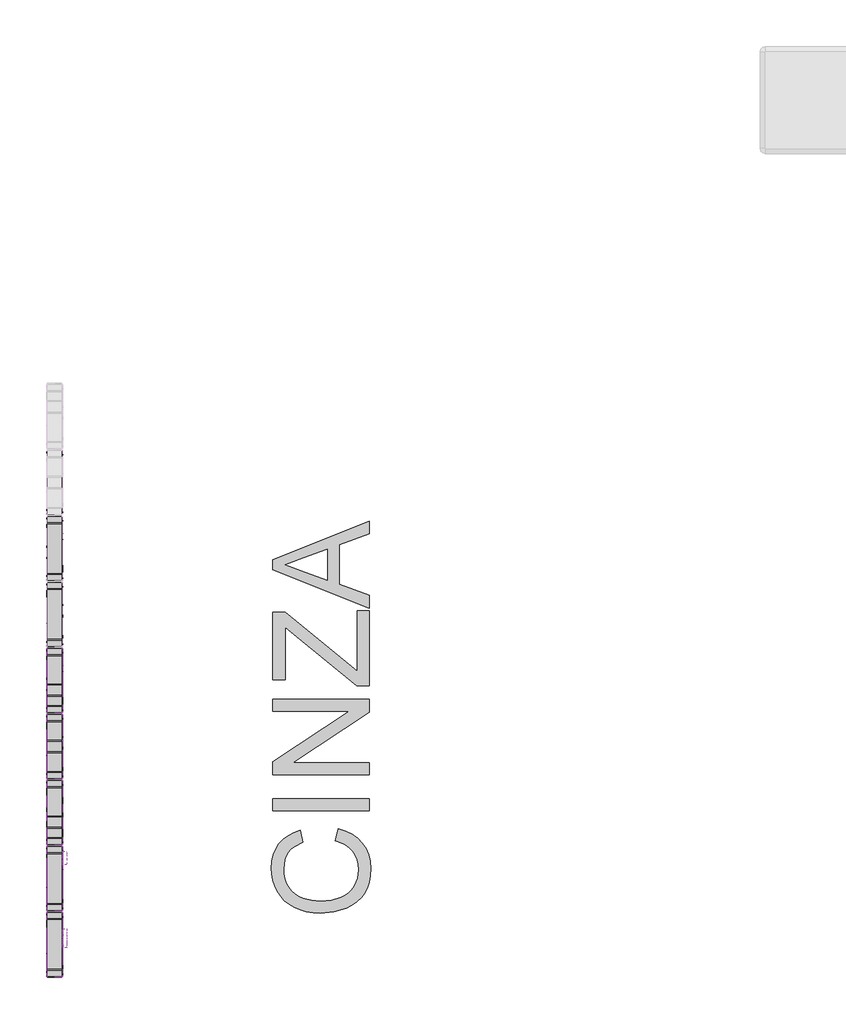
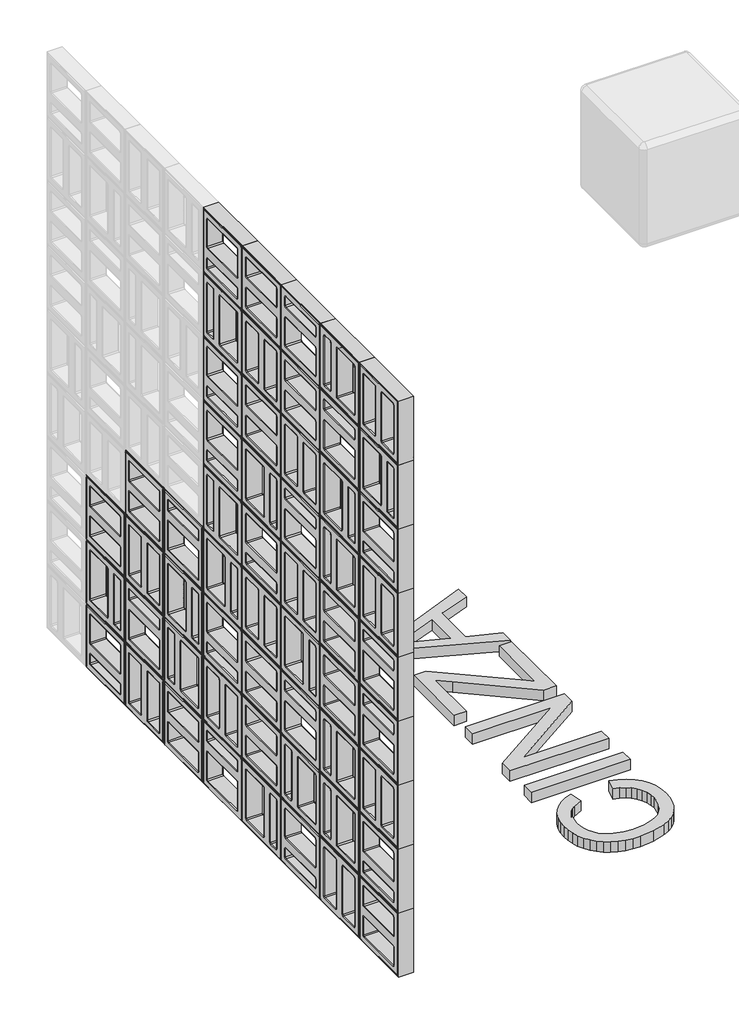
# One storey, part 7 of 8: 59 proxies.
"""IFC4 building model written with IfcOpenShell, lengths in millimetres."""

from ifc_helpers import new_model, si_unit, frame, origin, origin_with_axes, place, context, project, spatial, polyline, outline, extrude, transform, mapped, element, save
from components import plate_08ec880d, generic_models_726e0611, generic_models_d4af8894, generic_models_55a6a26f, generic_models_a87dd402, sim_branco_8a5b93f5, sim_branco_d7bac734

model = new_model("IFC4")

# Units and contexts
model_context = context("Model", 3, world=origin())
ifc_project = project(units=[si_unit("LENGTHUNIT", "METRE", prefix="MILLI")], contexts=[model_context])

# Site, building, storey
site = spatial("IfcSite", under=ifc_project)
building = spatial("IfcBuilding", under=site)
storey = spatial("IfcBuildingStorey", under=building, Name="PORTOBELLO - SHOWROOM", Elevation=0.0)

# Proxies
placement = place(None, origin())
plate_shape = plate_08ec880d(model_context)
element("IfcBuildingElementProxy", 1, Name="PORTOBELLO - ELEMENTO ASSIM CINZA 30X30 (COBOGO) : ASSIM CINZA", ObjectType="PORTOBELLO - ELEMENTO ASSIM CINZA 30X30 (COBOGO) : ASSIM CINZA", at=placement, inside=storey, context=model_context, shape_type="MappedRepresentation", body=[
    mapped(plate_shape, transform((152562.9354422, 11346.1065277, 308.0), x_axis=(0.0, 1.0, 0.0), y_axis=(-1.0, 0.0, 0.0), z_axis=(0.0, 0.0, 1.0))),
])
element("IfcBuildingElementProxy", 2, Name="PORTOBELLO - ELEMENTO ASSIM CINZA 30X30 (COBOGO) : ASSIM CINZA", ObjectType="PORTOBELLO - ELEMENTO ASSIM CINZA 30X30 (COBOGO) : ASSIM CINZA", at=placement, inside=storey, context=model_context, shape_type="MappedRepresentation", body=[
    mapped(plate_shape, transform((152562.9354422, 12270.1065277, 308.0), x_axis=(0.0, 1.0, 0.0), y_axis=(-1.0, 0.0, 0.0), z_axis=(0.0, 0.0, 1.0))),
])
element("IfcBuildingElementProxy", 3, Name="PORTOBELLO - ELEMENTO ASSIM CINZA 30X30 (COBOGO) : ASSIM CINZA", ObjectType="PORTOBELLO - ELEMENTO ASSIM CINZA 30X30 (COBOGO) : ASSIM CINZA", at=placement, inside=storey, context=model_context, shape_type="MappedRepresentation", body=[
    mapped(plate_shape, transform((152562.9354422, 11038.1065277, 616.0), x_axis=(0.0, 1.0, 0.0), y_axis=(-1.0, 0.0, 0.0), z_axis=(0.0, 0.0, 1.0))),
])
element("IfcBuildingElementProxy", 4, Name="PORTOBELLO - ELEMENTO ASSIM CINZA 30X30 (COBOGO) : ASSIM CINZA", ObjectType="PORTOBELLO - ELEMENTO ASSIM CINZA 30X30 (COBOGO) : ASSIM CINZA", at=placement, inside=storey, context=model_context, shape_type="MappedRepresentation", body=[
    mapped(plate_shape, transform((152562.9354422, 11962.1065277, 1232.0), x_axis=(0.0, 1.0, 0.0), y_axis=(-1.0, 0.0, 0.0), z_axis=(0.0, 0.0, 1.0))),
])
element("IfcBuildingElementProxy", 5, Name="PORTOBELLO - ELEMENTO ASSIM CINZA 30X30 (COBOGO) : ASSIM CINZA", ObjectType="PORTOBELLO - ELEMENTO ASSIM CINZA 30X30 (COBOGO) : ASSIM CINZA", at=placement, inside=storey, context=model_context, shape_type="MappedRepresentation", body=[
    mapped(plate_shape, transform((152562.9354422, 11038.1065277, 1540.0), x_axis=(0.0, 1.0, 0.0), y_axis=(-1.0, 0.0, 0.0), z_axis=(0.0, 0.0, 1.0))),
])
element("IfcBuildingElementProxy", 6, Name="PORTOBELLO - ELEMENTO ASSIM CINZA 30X30 (COBOGO) : ASSIM CINZA", ObjectType="PORTOBELLO - ELEMENTO ASSIM CINZA 30X30 (COBOGO) : ASSIM CINZA", at=placement, inside=storey, context=model_context, shape_type="MappedRepresentation", body=[
    mapped(plate_shape, transform((152562.9354422, 11962.1065277, 2156.0), x_axis=(0.0, 1.0, 0.0), y_axis=(-1.0, 0.0, 0.0), z_axis=(0.0, 0.0, 1.0))),
])
element("IfcBuildingElementProxy", 7, Name="PORTOBELLO - ELEMENTO ASSIM CINZA 30X30 (COBOGO) : ASSIM CINZA", ObjectType="PORTOBELLO - ELEMENTO ASSIM CINZA 30X30 (COBOGO) : ASSIM CINZA", at=placement, inside=storey, context=model_context, shape_type="MappedRepresentation", body=[
    mapped(plate_shape, transform((152562.9354422, 11038.1065277, 2464.0), x_axis=(0.0, 1.0, 0.0), y_axis=(-1.0, 0.0, 0.0), z_axis=(0.0, 0.0, 1.0))),
])
generic_models_shape = generic_models_726e0611(model_context)
element("IfcBuildingElementProxy", 8, Name="PORTOBELLO - ELEMENTO ASSIM CINZA 30X30 (COBOGO) : ASSIM CINZA", ObjectType="PORTOBELLO - ELEMENTO ASSIM CINZA 30X30 (COBOGO) : ASSIM CINZA", at=placement, inside=storey, context=model_context, shape_type="MappedRepresentation", body=[
    mapped(generic_models_shape, transform((152562.9354422, 11962.1065277, 0.0), x_axis=(0.0, 1.0, 0.0), y_axis=(-1.0, 0.0, 0.0), z_axis=(0.0, 0.0, 1.0))),
])
element("IfcBuildingElementProxy", 9, Name="PORTOBELLO - ELEMENTO ASSIM CINZA 30X30 (COBOGO) : ASSIM CINZA", ObjectType="PORTOBELLO - ELEMENTO ASSIM CINZA 30X30 (COBOGO) : ASSIM CINZA", at=placement, inside=storey, context=model_context, shape_type="MappedRepresentation", body=[
    mapped(generic_models_shape, transform((152562.9354422, 12578.1065277, 308.0), x_axis=(0.0, 1.0, 0.0), y_axis=(-1.0, 0.0, 0.0), z_axis=(0.0, 0.0, 1.0))),
])
element("IfcBuildingElementProxy", 10, Name="PORTOBELLO - ELEMENTO ASSIM CINZA 30X30 (COBOGO) : ASSIM CINZA", ObjectType="PORTOBELLO - ELEMENTO ASSIM CINZA 30X30 (COBOGO) : ASSIM CINZA", at=placement, inside=storey, context=model_context, shape_type="MappedRepresentation", body=[
    mapped(generic_models_shape, transform((152562.9354422, 11346.1065277, 616.0), x_axis=(0.0, 1.0, 0.0), y_axis=(-1.0, 0.0, 0.0), z_axis=(0.0, 0.0, 1.0))),
])
element("IfcBuildingElementProxy", 11, Name="PORTOBELLO - ELEMENTO ASSIM CINZA 30X30 (COBOGO) : ASSIM CINZA", ObjectType="PORTOBELLO - ELEMENTO ASSIM CINZA 30X30 (COBOGO) : ASSIM CINZA", at=placement, inside=storey, context=model_context, shape_type="MappedRepresentation", body=[
    mapped(generic_models_shape, transform((152562.9354422, 10730.1065277, 924.0), x_axis=(0.0, 1.0, 0.0), y_axis=(-1.0, 0.0, 0.0), z_axis=(0.0, 0.0, 1.0))),
])
element("IfcBuildingElementProxy", 12, Name="PORTOBELLO - ELEMENTO ASSIM CINZA 30X30 (COBOGO) : ASSIM CINZA", ObjectType="PORTOBELLO - ELEMENTO ASSIM CINZA 30X30 (COBOGO) : ASSIM CINZA", at=placement, inside=storey, context=model_context, shape_type="MappedRepresentation", body=[
    mapped(generic_models_shape, transform((152562.9354422, 12270.1065277, 924.0), x_axis=(0.0, 1.0, 0.0), y_axis=(-1.0, 0.0, 0.0), z_axis=(0.0, 0.0, 1.0))),
])
element("IfcBuildingElementProxy", 13, Name="PORTOBELLO - ELEMENTO ASSIM CINZA 30X30 (COBOGO) : ASSIM CINZA", ObjectType="PORTOBELLO - ELEMENTO ASSIM CINZA 30X30 (COBOGO) : ASSIM CINZA", at=placement, inside=storey, context=model_context, shape_type="MappedRepresentation", body=[
    mapped(generic_models_shape, transform((152562.9354422, 10730.1065277, 1232.0), x_axis=(0.0, 1.0, 0.0), y_axis=(-1.0, 0.0, 0.0), z_axis=(0.0, 0.0, 1.0))),
])
element("IfcBuildingElementProxy", 14, Name="PORTOBELLO - ELEMENTO ASSIM CINZA 30X30 (COBOGO) : ASSIM CINZA", ObjectType="PORTOBELLO - ELEMENTO ASSIM CINZA 30X30 (COBOGO) : ASSIM CINZA", at=placement, inside=storey, context=model_context, shape_type="MappedRepresentation", body=[
    mapped(generic_models_shape, transform((152562.9354422, 11346.1065277, 1540.0), x_axis=(0.0, 1.0, 0.0), y_axis=(-1.0, 0.0, 0.0), z_axis=(0.0, 0.0, 1.0))),
])
element("IfcBuildingElementProxy", 15, Name="PORTOBELLO - ELEMENTO ASSIM CINZA 30X30 (COBOGO) : ASSIM CINZA", ObjectType="PORTOBELLO - ELEMENTO ASSIM CINZA 30X30 (COBOGO) : ASSIM CINZA", at=placement, inside=storey, context=model_context, shape_type="MappedRepresentation", body=[
    mapped(generic_models_shape, transform((152562.9354422, 11038.1065277, 2156.0), x_axis=(0.0, 1.0, 0.0), y_axis=(-1.0, 0.0, 0.0), z_axis=(0.0, 0.0, 1.0))),
])
element("IfcBuildingElementProxy", 16, Name="PORTOBELLO - ELEMENTO ASSIM CINZA 30X30 (COBOGO) : ASSIM CINZA", ObjectType="PORTOBELLO - ELEMENTO ASSIM CINZA 30X30 (COBOGO) : ASSIM CINZA", at=placement, inside=storey, context=model_context, shape_type="MappedRepresentation", body=[
    mapped(generic_models_shape, transform((152562.9354422, 11346.1065277, 2464.0), x_axis=(0.0, 1.0, 0.0), y_axis=(-1.0, 0.0, 0.0), z_axis=(0.0, 0.0, 1.0))),
])
generic_models_2_shape = generic_models_d4af8894(model_context)
element("IfcBuildingElementProxy", 17, Name="PORTOBELLO - ELEMENTO ASSIM CINZA 30X30 (COBOGO) : ASSIM CINZA", ObjectType="PORTOBELLO - ELEMENTO ASSIM CINZA 30X30 (COBOGO) : ASSIM CINZA", at=placement, inside=storey, context=model_context, shape_type="MappedRepresentation", body=[
    mapped(generic_models_2_shape, transform((152562.9354422, 11346.1065277, 0.0), x_axis=(0.0, 1.0, 0.0), y_axis=(-1.0, 0.0, 0.0), z_axis=(0.0, 0.0, 1.0))),
])
element("IfcBuildingElementProxy", 18, Name="PORTOBELLO - ELEMENTO ASSIM CINZA 30X30 (COBOGO) : ASSIM CINZA", ObjectType="PORTOBELLO - ELEMENTO ASSIM CINZA 30X30 (COBOGO) : ASSIM CINZA", at=placement, inside=storey, context=model_context, shape_type="MappedRepresentation", body=[
    mapped(generic_models_2_shape, transform((152562.9354422, 12886.1065277, 0.0), x_axis=(0.0, 1.0, 0.0), y_axis=(-1.0, 0.0, 0.0), z_axis=(0.0, 0.0, 1.0))),
])
element("IfcBuildingElementProxy", 19, Name="PORTOBELLO - ELEMENTO ASSIM CINZA 30X30 (COBOGO) : ASSIM CINZA", ObjectType="PORTOBELLO - ELEMENTO ASSIM CINZA 30X30 (COBOGO) : ASSIM CINZA", at=placement, inside=storey, context=model_context, shape_type="MappedRepresentation", body=[
    mapped(generic_models_2_shape, transform((152562.9354422, 10730.1065277, 308.0), x_axis=(0.0, 1.0, 0.0), y_axis=(-1.0, 0.0, 0.0), z_axis=(0.0, 0.0, 1.0))),
])
element("IfcBuildingElementProxy", 20, Name="PORTOBELLO - ELEMENTO ASSIM CINZA 30X30 (COBOGO) : ASSIM CINZA", ObjectType="PORTOBELLO - ELEMENTO ASSIM CINZA 30X30 (COBOGO) : ASSIM CINZA", at=placement, inside=storey, context=model_context, shape_type="MappedRepresentation", body=[
    mapped(generic_models_2_shape, transform((152562.9354422, 11962.1065277, 616.0), x_axis=(0.0, 1.0, 0.0), y_axis=(-1.0, 0.0, 0.0), z_axis=(0.0, 0.0, 1.0))),
])
element("IfcBuildingElementProxy", 21, Name="PORTOBELLO - ELEMENTO ASSIM CINZA 30X30 (COBOGO) : ASSIM CINZA", ObjectType="PORTOBELLO - ELEMENTO ASSIM CINZA 30X30 (COBOGO) : ASSIM CINZA", at=placement, inside=storey, context=model_context, shape_type="MappedRepresentation", body=[
    mapped(generic_models_2_shape, transform((152562.9354422, 11654.1065277, 1232.0), x_axis=(0.0, 1.0, 0.0), y_axis=(-1.0, 0.0, 0.0), z_axis=(0.0, 0.0, 1.0))),
])
element("IfcBuildingElementProxy", 22, Name="PORTOBELLO - ELEMENTO ASSIM CINZA 30X30 (COBOGO) : ASSIM CINZA", ObjectType="PORTOBELLO - ELEMENTO ASSIM CINZA 30X30 (COBOGO) : ASSIM CINZA", at=placement, inside=storey, context=model_context, shape_type="MappedRepresentation", body=[
    mapped(generic_models_2_shape, transform((152562.9354422, 11962.1065277, 1540.0), x_axis=(0.0, 1.0, 0.0), y_axis=(-1.0, 0.0, 0.0), z_axis=(0.0, 0.0, 1.0))),
])
element("IfcBuildingElementProxy", 23, Name="PORTOBELLO - ELEMENTO ASSIM CINZA 30X30 (COBOGO) : ASSIM CINZA", ObjectType="PORTOBELLO - ELEMENTO ASSIM CINZA 30X30 (COBOGO) : ASSIM CINZA", at=placement, inside=storey, context=model_context, shape_type="MappedRepresentation", body=[
    mapped(generic_models_2_shape, transform((152562.9354422, 10730.1065277, 1848.0), x_axis=(0.0, 1.0, 0.0), y_axis=(-1.0, 0.0, 0.0), z_axis=(0.0, 0.0, 1.0))),
])
element("IfcBuildingElementProxy", 24, Name="PORTOBELLO - ELEMENTO ASSIM CINZA 30X30 (COBOGO) : ASSIM CINZA", ObjectType="PORTOBELLO - ELEMENTO ASSIM CINZA 30X30 (COBOGO) : ASSIM CINZA", at=placement, inside=storey, context=model_context, shape_type="MappedRepresentation", body=[
    mapped(generic_models_2_shape, transform((152562.9354422, 11962.1065277, 1848.0), x_axis=(0.0, 1.0, 0.0), y_axis=(-1.0, 0.0, 0.0), z_axis=(0.0, 0.0, 1.0))),
])
element("IfcBuildingElementProxy", 25, Name="PORTOBELLO - ELEMENTO ASSIM CINZA 30X30 (COBOGO) : ASSIM CINZA", ObjectType="PORTOBELLO - ELEMENTO ASSIM CINZA 30X30 (COBOGO) : ASSIM CINZA", at=placement, inside=storey, context=model_context, shape_type="MappedRepresentation", body=[
    mapped(generic_models_2_shape, transform((152562.9354422, 11962.1065277, 2464.0), x_axis=(0.0, 1.0, 0.0), y_axis=(-1.0, 0.0, 0.0), z_axis=(0.0, 0.0, 1.0))),
])
generic_models_3_shape = generic_models_55a6a26f(model_context)
element("IfcBuildingElementProxy", 26, Name="PORTOBELLO - ELEMENTO ASSIM CINZA 30X30 (COBOGO) : ASSIM CINZA", ObjectType="PORTOBELLO - ELEMENTO ASSIM CINZA 30X30 (COBOGO) : ASSIM CINZA", at=placement, inside=storey, context=model_context, shape_type="MappedRepresentation", body=[
    mapped(generic_models_3_shape, transform((152562.9354422, 11654.1065277, 0.0), x_axis=(0.0, 1.0, 0.0), y_axis=(-1.0, 0.0, 0.0), z_axis=(0.0, 0.0, 1.0))),
])
element("IfcBuildingElementProxy", 27, Name="PORTOBELLO - ELEMENTO ASSIM CINZA 30X30 (COBOGO) : ASSIM CINZA", ObjectType="PORTOBELLO - ELEMENTO ASSIM CINZA 30X30 (COBOGO) : ASSIM CINZA", at=placement, inside=storey, context=model_context, shape_type="MappedRepresentation", body=[
    mapped(generic_models_3_shape, transform((152562.9354422, 12886.1065277, 308.0), x_axis=(0.0, 1.0, 0.0), y_axis=(-1.0, 0.0, 0.0), z_axis=(0.0, 0.0, 1.0))),
])
element("IfcBuildingElementProxy", 28, Name="PORTOBELLO - ELEMENTO ASSIM CINZA 30X30 (COBOGO) : ASSIM CINZA", ObjectType="PORTOBELLO - ELEMENTO ASSIM CINZA 30X30 (COBOGO) : ASSIM CINZA", at=placement, inside=storey, context=model_context, shape_type="MappedRepresentation", body=[
    mapped(generic_models_3_shape, transform((152562.9354422, 12270.1065277, 616.0), x_axis=(0.0, 1.0, 0.0), y_axis=(-1.0, 0.0, 0.0), z_axis=(0.0, 0.0, 1.0))),
])
element("IfcBuildingElementProxy", 29, Name="PORTOBELLO - ELEMENTO ASSIM CINZA 30X30 (COBOGO) : ASSIM CINZA", ObjectType="PORTOBELLO - ELEMENTO ASSIM CINZA 30X30 (COBOGO) : ASSIM CINZA", at=placement, inside=storey, context=model_context, shape_type="MappedRepresentation", body=[
    mapped(generic_models_3_shape, transform((152562.9354422, 11346.1065277, 924.0), x_axis=(0.0, 1.0, 0.0), y_axis=(-1.0, 0.0, 0.0), z_axis=(0.0, 0.0, 1.0))),
])
element("IfcBuildingElementProxy", 30, Name="PORTOBELLO - ELEMENTO ASSIM CINZA 30X30 (COBOGO) : ASSIM CINZA", ObjectType="PORTOBELLO - ELEMENTO ASSIM CINZA 30X30 (COBOGO) : ASSIM CINZA", at=placement, inside=storey, context=model_context, shape_type="MappedRepresentation", body=[
    mapped(generic_models_3_shape, transform((152562.9354422, 11962.1065277, 924.0), x_axis=(0.0, 1.0, 0.0), y_axis=(-1.0, 0.0, 0.0), z_axis=(0.0, 0.0, 1.0))),
])
element("IfcBuildingElementProxy", 31, Name="PORTOBELLO - ELEMENTO ASSIM CINZA 30X30 (COBOGO) : ASSIM CINZA", ObjectType="PORTOBELLO - ELEMENTO ASSIM CINZA 30X30 (COBOGO) : ASSIM CINZA", at=placement, inside=storey, context=model_context, shape_type="MappedRepresentation", body=[
    mapped(generic_models_3_shape, transform((152562.9354422, 11654.1065277, 1540.0), x_axis=(0.0, 1.0, 0.0), y_axis=(-1.0, 0.0, 0.0), z_axis=(0.0, 0.0, 1.0))),
])
element("IfcBuildingElementProxy", 32, Name="PORTOBELLO - ELEMENTO ASSIM CINZA 30X30 (COBOGO) : ASSIM CINZA", ObjectType="PORTOBELLO - ELEMENTO ASSIM CINZA 30X30 (COBOGO) : ASSIM CINZA", at=placement, inside=storey, context=model_context, shape_type="MappedRepresentation", body=[
    mapped(generic_models_3_shape, transform((152562.9354422, 11038.1065277, 1848.0), x_axis=(0.0, 1.0, 0.0), y_axis=(-1.0, 0.0, 0.0), z_axis=(0.0, 0.0, 1.0))),
])
element("IfcBuildingElementProxy", 33, Name="PORTOBELLO - ELEMENTO ASSIM CINZA 30X30 (COBOGO) : ASSIM CINZA", ObjectType="PORTOBELLO - ELEMENTO ASSIM CINZA 30X30 (COBOGO) : ASSIM CINZA", at=placement, inside=storey, context=model_context, shape_type="MappedRepresentation", body=[
    mapped(generic_models_3_shape, transform((152562.9354422, 10730.1065277, 2156.0), x_axis=(0.0, 1.0, 0.0), y_axis=(-1.0, 0.0, 0.0), z_axis=(0.0, 0.0, 1.0))),
])
generic_models_4_shape = generic_models_a87dd402(model_context)
element("IfcBuildingElementProxy", 34, Name="PORTOBELLO - ELEMENTO ASSIM CINZA 30X30 (COBOGO) : ASSIM CINZA", ObjectType="PORTOBELLO - ELEMENTO ASSIM CINZA 30X30 (COBOGO) : ASSIM CINZA", at=placement, inside=storey, context=model_context, shape_type="MappedRepresentation", body=[
    mapped(generic_models_4_shape, transform((152562.9354422, 11038.1065277, 308.0), x_axis=(0.0, -1.0, 0.0), y_axis=(1.0, 0.0, 0.0), z_axis=(0.0, 0.0, 1.0))),
])
element("IfcBuildingElementProxy", 35, Name="10mm Arial", ObjectType="10mm Arial", at=placement, inside=storey, context=model_context, shape_type="SweptSolid", body=[
    extrude(outline(polyline([(10789.8815744, 2658.9410805), (10802.4386132, 2655.703719), (10796.6444718, 2641.0712126), (10787.5516551, 2630.381175), (10775.607753, 2623.8420725), (10761.2603552, 2621.6623717), (10746.6952939, 2623.3117093), (10735.1284708, 2628.2597221), (10726.2625147, 2636.3347319), (10719.8000543, 2647.3650604), (10714.5393418, 2674.2204461), (10716.0261982, 2688.8682808), (10720.4867674, 2701.5172901), (10727.6880575, 2711.7658694), (10737.3970764, 2719.2124141), (10748.9117829, 2723.7465597), (10761.5301353, 2725.2579415), (10775.298119, 2723.3020356), (10786.6810011, 2717.4343178), (10795.3231623, 2708.0165387), (10800.8689833, 2695.410449), (10788.3119446, 2692.4183421), (10778.0112487, 2707.8571232), (10761.039626, 2712.7009028), (10741.3947275, 2707.3298256), (10730.2969539, 2692.9088514), (10727.0963806, 2674.2449715), (10730.8855651, 2652.6135102), (10742.6823144, 2638.7934099), (10760.0095564, 2634.2194105), (10770.4911276, 2635.7767776), (10779.2252593, 2640.4488789), (10785.8195441, 2648.1866635), (10789.8815744, 2658.9410805)])), frame((152600.4354422, 0.0, 0.0), z_axis=(1.0, 0.0, 0.0), x_axis=(0.0, 1.0, 0.0)), (0.0, 0.0, 1.0), 20.0),
    extrude(outline(polyline([(152620.4354422, 10830.6919504), (152620.4354422, 10818.1349116), (152600.4354422, 10818.1349116), (152600.4354422, 10830.6919504), (152620.4354422, 10830.6919504)])), frame((0.0, 0.0, 2711.1312729), z_axis=(0.0, 0.0, 1.0), x_axis=(1.0, 0.0, 0.0)), (0.0, 0.0, 1.0), 12.5570388),
    extrude(outline(polyline([(152620.4354422, 10830.6919504), (152620.4354422, 10818.1349116), (152600.4354422, 10818.1349116), (152600.4354422, 10830.6919504), (152620.4354422, 10830.6919504)])), frame((0.0, 0.0, 2623.2320015), z_axis=(0.0, 0.0, 1.0), x_axis=(1.0, 0.0, 0.0)), (0.0, 0.0, 1.0), 73.7726028),
    extrude(outline(polyline([(10849.5275086, 2623.2320015), (10849.5275086, 2697.0046043), (10862.0845473, 2697.0046043), (10862.0845473, 2686.7039084), (10871.6862674, 2695.6066527), (10884.7951292, 2698.5742342), (10896.6531922, 2696.1830012), (10904.746596, 2689.9044818), (10908.5112551, 2680.6706437), (10909.1734427, 2668.5305379), (10909.1734427, 2623.2320015), (10896.616404, 2623.2320015), (10896.616404, 2666.8382807), (10895.1694014, 2677.948317), (10890.0558417, 2683.8221661), (10881.4351403, 2686.0171954), (10867.8112437, 2681.0875766), (10863.5162214, 2673.9445346), (10862.0845473, 2662.3746458), (10862.0845473, 2623.2320015), (10849.5275086, 2623.2320015)])), frame((152600.4354422, 0.0, 0.0), z_axis=(1.0, 0.0, 0.0), x_axis=(0.0, 1.0, 0.0)), (0.0, 0.0, 1.0), 20.0),
    extrude(outline(polyline([(10918.5912218, 2623.2320015), (10918.5912218, 2635.0532763), (10961.9277208, 2684.4475655), (10949.1009019, 2684.4475655), (10921.7304815, 2684.4475655), (10921.7304815, 2697.0046043), (10979.8067858, 2697.0046043), (10979.8067858, 2686.3360264), (10941.37538, 2642.5090181), (10935.4892681, 2635.7890403), (10950.0083442, 2635.7890403), (10981.3764156, 2635.7890403), (10981.3764156, 2623.2320015), (10918.5912218, 2623.2320015)])), frame((152600.4354422, 0.0, 0.0), z_axis=(1.0, 0.0, 0.0), x_axis=(0.0, 1.0, 0.0)), (0.0, 0.0, 1.0), 20.0),
    extrude(outline(polyline([(11041.0223498, 2632.6497806), (11028.8454558, 2624.1394438), (11015.3932375, 2621.6623717), (11004.8994036, 2623.1522938), (10997.1585532, 2627.62206), (10992.3852843, 2634.4094828), (10990.7941947, 2642.8523746), (10993.1976904, 2652.7851885), (10999.512998, 2659.9956756), (11008.3053777, 2664.1159539), (11019.1701593, 2666.0044148), (11040.9487734, 2670.3208969), (11041.0223498, 2673.1168001), (11037.564259, 2682.3874264), (11023.6828451, 2686.0171954), (11010.9786535, 2683.6014369), (11004.9208633, 2675.0297865), (10992.3638246, 2676.5994163), (10997.7962154, 2688.8621495), (11008.7345734, 2696.0481111), (11025.3015259, 2698.5742342), (11040.5195777, 2696.3424167), (11049.1157537, 2690.7383477), (11052.9662519, 2682.2157481), (11053.5793886, 2671.2283392), (11053.5793886, 2655.6056171), (11054.2170507, 2633.7902148), (11056.7186483, 2623.2320015), (11044.1616095, 2623.2320015), (11041.0223498, 2632.6497806)]), holes=[polyline([(11041.0223498, 2657.7638582), (11020.7643146, 2653.9133599), (11009.9608467, 2651.8777462), (11005.0680161, 2648.5668083), (11003.3512335, 2643.7352914), (11007.0913671, 2636.9417372), (11018.0665133, 2634.2194105), (11030.7707049, 2637.2237801), (11038.9622106, 2644.4955809), (11040.9487734, 2654.2076655), (11041.0223498, 2657.7638582)])]), frame((152600.4354422, 0.0, 0.0), z_axis=(1.0, 0.0, 0.0), x_axis=(0.0, 1.0, 0.0)), (0.0, 0.0, 1.0), 20.0),
])
element("IfcBuildingElementProxy", 36, Name="10mm Arial Narrow", ObjectType="10mm Arial Narrow", at=placement, inside=storey, context=model_context, shape_type="SweptSolid", body=[
    extrude(outline(polyline([(11101.3832905, 2623.2320015), (11101.3832905, 2723.9506053), (11132.6801752, 2723.9506053), (11148.9758767, 2722.0722846), (11160.4488628, 2712.5918414), (11164.7385412, 2695.5727326), (11162.9522328, 2683.496907), (11157.5933076, 2673.8705133), (11147.8495188, 2667.5692548), (11132.9086196, 2665.4688354), (11111.1302521, 2665.4688354), (11111.1302521, 2623.2320015), (11101.3832905, 2623.2320015)]), holes=[polyline([(11111.1302521, 2676.8402906), (11134.1016071, 2676.8402906), (11149.9658025, 2681.3711048), (11154.9915796, 2695.0396956), (11152.5167651, 2705.205472), (11146.5391363, 2711.0054218), (11133.8731626, 2712.57915), (11111.1302521, 2712.57915), (11111.1302521, 2676.8402906)])]), frame((152600.4354422, 0.0, 0.0), z_axis=(1.0, 0.0, 0.0), x_axis=(0.0, 1.0, 0.0)), (0.0, 0.0, 1.0), 20.0),
    extrude(outline(polyline([(11172.8610093, 2659.7831077), (11174.8154781, 2676.3738833), (11180.6788848, 2688.3259681), (11189.5374515, 2695.5505227), (11200.4774006, 2697.9587076), (11211.2904362, 2695.5505227), (11220.1743856, 2688.3259681), (11226.1139404, 2676.5642536), (11228.093792, 2660.5445891), (11226.1488416, 2643.3827025), (11220.3139905, 2631.2402474), (11211.4649423, 2624.0156928), (11200.4774006, 2621.6075079), (11189.6167724, 2624.0220385), (11180.7423415, 2631.2656301), (11174.8313423, 2643.2240606), (11172.8610093, 2659.7831077)]), holes=[polyline([(11182.6079709, 2659.8084905), (11183.9120078, 2647.2567391), (11187.8241184, 2638.385481), (11193.6653151, 2633.1122224), (11200.7566105, 2631.3544696), (11207.4766836, 2633.1280866), (11213.1687569, 2638.4489378), (11217.052312, 2647.33606), (11218.3468303, 2659.8084905), (11217.0427934, 2672.3221678), (11213.1306829, 2681.1807345), (11207.2894861, 2686.453993), (11200.1981908, 2688.2117459), (11193.430525, 2686.4444745), (11187.7479702, 2681.1426604), (11183.8929707, 2672.2745752), (11182.6079709, 2659.8084905)])]), frame((152600.4354422, 0.0, 0.0), z_axis=(1.0, 0.0, 0.0), x_axis=(0.0, 1.0, 0.0)), (0.0, 0.0, 1.0), 20.0),
    extrude(outline(polyline([(11299.5715108, 2631.3544696), (11301.1960044, 2621.6075079), (11293.8350177, 2621.6075079), (11285.5602534, 2623.7269644), (11281.2451922, 2629.5269143), (11280.0775874, 2644.1727395), (11280.0775874, 2686.5872523), (11271.9551194, 2686.5872523), (11271.9551194, 2689.8362395), (11270.3306258, 2684.9627587), (11262.7665774, 2686.5872523), (11256.6874178, 2684.2647341), (11252.8165541, 2677.779451), (11250.8367025, 2662.3721444), (11250.8367025, 2623.2320015), (11241.0897408, 2623.2320015), (11241.0897408, 2696.3342139), (11250.8367025, 2696.3342139), (11250.8367025, 2686.6380177), (11257.0808498, 2695.7250288), (11263.4772934, 2697.9587076), (11271.9551194, 2696.3342139), (11280.0775874, 2696.3342139), (11280.0775874, 2712.57915), (11289.8245491, 2720.7016181), (11289.8245491, 2696.3342139), (11299.5715108, 2696.3342139), (11299.5715108, 2686.5872523), (11289.8245491, 2686.5872523), (11289.8245491, 2641.9390608), (11290.6875613, 2633.9435063), (11295.307215, 2631.3544696), (11299.5715108, 2631.3544696)])), frame((152600.4354422, 0.0, 0.0), z_axis=(1.0, 0.0, 0.0), x_axis=(0.0, 1.0, 0.0)), (0.0, 0.0, 1.0), 20.0),
    extrude(outline(polyline([(11306.0694852, 2659.7831077), (11308.0239541, 2676.3738833), (11313.8873607, 2688.3259681), (11322.7459274, 2695.5505227), (11333.6858765, 2697.9587076), (11344.4989121, 2695.5505227), (11353.3828616, 2688.3259681), (11359.3224163, 2676.5642536), (11361.3022679, 2660.5445891), (11359.3573175, 2643.3827025), (11353.5224665, 2631.2402474), (11344.6734183, 2624.0156928), (11333.6858765, 2621.6075079), (11322.8252484, 2624.0220385), (11313.9508175, 2631.2656301), (11308.0398183, 2643.2240606), (11306.0694852, 2659.7831077)]), holes=[polyline([(11315.8164468, 2659.8084905), (11317.1204837, 2647.2567391), (11321.0325943, 2638.385481), (11326.873791, 2633.1122224), (11333.9650864, 2631.3544696), (11340.6851596, 2633.1280866), (11346.3772329, 2638.4489378), (11350.2607879, 2647.33606), (11351.5553062, 2659.8084905), (11350.2512694, 2672.3221678), (11346.3391588, 2681.1807345), (11340.497962, 2686.453993), (11333.4066667, 2688.2117459), (11326.6390009, 2686.4444745), (11320.9564462, 2681.1426604), (11317.1014467, 2672.2745752), (11315.8164468, 2659.8084905)])]), frame((152600.4354422, 0.0, 0.0), z_axis=(1.0, 0.0, 0.0), x_axis=(0.0, 1.0, 0.0)), (0.0, 0.0, 1.0), 20.0),
    extrude(outline(polyline([(11384.0451784, 2623.2320015), (11374.2982168, 2623.2320015), (11374.2982168, 2723.9506053), (11384.0451784, 2723.9506053), (11384.0451784, 2688.5417212), (11391.4442392, 2695.623498), (11400.6454725, 2697.9587076), (11413.5271991, 2693.7578686), (11422.8045806, 2681.0284382), (11426.2820123, 2660.3415274), (11424.3497533, 2643.887184), (11418.5529763, 2631.6844448), (11410.1798539, 2624.1267422), (11400.5185589, 2621.6075079), (11391.1777207, 2624.2219273), (11384.0451784, 2631.9890374), (11384.0451784, 2623.2320015)]), holes=[polyline([(11384.0451784, 2660.3415274), (11386.1265609, 2643.0939742), (11392.0153502, 2634.362321), (11400.4677935, 2631.3544696), (11406.4105211, 2633.1439508), (11411.6488784, 2638.5123945), (11416.5350506, 2659.935404), (11411.8265574, 2681.3711048), (11406.5818544, 2686.5015856), (11400.2647318, 2688.2117459), (11394.287103, 2686.4222647), (11388.9948074, 2681.0538209), (11384.0451784, 2660.3415274)])]), frame((152600.4354422, 0.0, 0.0), z_axis=(1.0, 0.0, 0.0), x_axis=(0.0, 1.0, 0.0)), (0.0, 0.0, 1.0), 20.0),
    extrude(outline(polyline([(11478.2658077, 2645.9749121), (11488.0127694, 2644.3504185), (11484.313239, 2634.4638519), (11478.4942522, 2627.344001), (11470.7905989, 2623.0416312), (11461.4370693, 2621.6075079), (11449.8435153, 2624.0220385), (11440.699393, 2631.2656301), (11434.7598383, 2643.0717643), (11432.7799867, 2659.1739226), (11434.7693568, 2675.8408463), (11440.7374671, 2688.0213756), (11449.7515029, 2695.4743746), (11460.8786496, 2697.9587076), (11471.5615988, 2695.5600412), (11480.3091161, 2688.3640422), (11486.1439672, 2676.6245376), (11488.0889175, 2660.5953545), (11488.0127694, 2657.3463673), (11442.5269483, 2657.3463673), (11448.5299599, 2637.9032094), (11454.4599961, 2632.9916546), (11461.5639828, 2631.3544696), (11471.7424506, 2635.0095802), (11478.2658077, 2645.9749121)]), holes=[polyline([(11443.1868989, 2667.093329), (11478.2658077, 2667.093329), (11474.001512, 2681.3584135), (11468.1761795, 2686.4984128), (11460.9547977, 2688.2117459), (11448.7457129, 2682.5006356), (11443.1868989, 2667.093329)])]), frame((152600.4354422, 0.0, 0.0), z_axis=(1.0, 0.0, 0.0), x_axis=(0.0, 1.0, 0.0)), (0.0, 0.0, 1.0), 20.0),
    extrude(outline(polyline([(152620.4354422, 11510.7556799), (152620.4354422, 11501.0087183), (152600.4354422, 11501.0087183), (152600.4354422, 11510.7556799), (152620.4354422, 11510.7556799)])), frame((0.0, 0.0, 2623.2320015), z_axis=(0.0, 0.0, 1.0), x_axis=(1.0, 0.0, 0.0)), (0.0, 0.0, 1.0), 100.7186038),
    extrude(outline(polyline([(152620.4354422, 11536.7475777), (152620.4354422, 11527.000616), (152600.4354422, 11527.000616), (152600.4354422, 11536.7475777), (152620.4354422, 11536.7475777)])), frame((0.0, 0.0, 2623.2320015), z_axis=(0.0, 0.0, 1.0), x_axis=(1.0, 0.0, 0.0)), (0.0, 0.0, 1.0), 100.7186038),
    extrude(outline(polyline([(11548.1190329, 2659.7831077), (11550.0735018, 2676.3738833), (11555.9369084, 2688.3259681), (11564.7954751, 2695.5505227), (11575.7354243, 2697.9587076), (11586.5484599, 2695.5505227), (11595.4324093, 2688.3259681), (11601.371964, 2676.5642536), (11603.3518156, 2660.5445891), (11601.4068653, 2643.3827025), (11595.5720142, 2631.2402474), (11586.722966, 2624.0156928), (11575.7354243, 2621.6075079), (11564.8747961, 2624.0220385), (11556.0003652, 2631.2656301), (11550.089366, 2643.2240606), (11548.1190329, 2659.7831077)]), holes=[polyline([(11557.8659946, 2659.8084905), (11559.1700314, 2647.2567391), (11563.082142, 2638.385481), (11568.9233388, 2633.1122224), (11576.0146341, 2631.3544696), (11582.7347073, 2633.1280866), (11588.4267806, 2638.4489378), (11592.3103356, 2647.33606), (11593.604854, 2659.8084905), (11592.3008171, 2672.3221678), (11588.3887065, 2681.1807345), (11582.5475098, 2686.453993), (11575.4562144, 2688.2117459), (11568.6885487, 2686.4444745), (11563.0059939, 2681.1426604), (11559.1509944, 2672.2745752), (11557.8659946, 2659.8084905)])]), frame((152600.4354422, 0.0, 0.0), z_axis=(1.0, 0.0, 0.0), x_axis=(0.0, 1.0, 0.0)), (0.0, 0.0, 1.0), 20.0),
])
element("IfcBuildingElementProxy", 37, Name="450mm Arial", ObjectType="450mm Arial", at=placement, inside=storey, context=model_context, shape_type="SweptSolid", body=[
    extrude(outline(polyline([(153871.9875301, 11213.3111821), (153886.4784019, 11269.5182), (153921.4328273, 11258.3961814), (153951.9754957, 11243.5828328), (153978.1064073, 11225.0781542), (153999.8255619, 11202.8821456), (154016.8996786, 11177.4956751), (154029.0954763, 11149.419611), (154036.4129548, 11118.6539533), (154038.8521144, 11085.198702), (154037.0064494, 11050.9235362), (154031.4694543, 11020.0035013), (154022.2411292, 10992.4385972), (154009.3214741, 10968.228824), (153992.9026028, 10947.041413), (153973.1766292, 10928.5435956), (153950.1435531, 10912.7353718), (153923.8033747, 10899.6167416), (153865.757553, 10881.9559916), (153803.5950064, 10876.069075), (153769.6937766, 10877.732918), (153738.0293006, 10882.724447), (153708.6015784, 10891.043662), (153681.4106102, 10902.6905629), (153656.905805, 10917.404424), (153635.536572, 10934.9245192), (153617.3029111, 10955.2508486), (153602.2048224, 10978.3834122), (153590.3658076, 11003.5366016), (153581.9093684, 11029.9248084), (153576.8355049, 11057.5480328), (153575.1442171, 11086.4062746), (153577.3329425, 11118.5544658), (153583.8991188, 11148.033647), (153594.8427459, 11174.8438181), (153610.1638239, 11198.9849793), (153629.4575415, 11220.0591804), (153652.3190873, 11237.6684713), (153678.7484614, 11251.8128521), (153708.7456638, 11262.4923227), (153722.1387423, 11206.2853049), (153681.1498843, 11186.7994735), (153665.4823153, 11174.3806866), (153653.032653, 11160.1779855), (153643.5470326, 11144.1090359), (153636.7715894, 11126.091503), (153631.3512349, 11084.210688), (153632.8538395, 11058.9957477), (153637.3616534, 11035.9352268), (153644.8746764, 11015.0291253), (153655.3929086, 10996.2774432), (153668.4429267, 10979.9168922), (153683.5513072, 10966.1841839), (153700.7180502, 10955.0793184), (153719.9431557, 10946.6022956), (153761.0829602, 10935.8576435), (153803.4852271, 10932.2760928), (153855.410851, 10936.5163195), (153900.3105977, 10949.2369996), (153919.6969416, 10958.8975808), (153936.4691651, 10970.9184176), (153950.6272683, 10985.2995101), (153962.1712511, 11002.0408582), (153977.5266352, 11039.3521085), (153982.6450965, 11079.599956), (153980.9023496, 11104.0361492), (153975.674109, 11126.5168979), (153966.9603745, 11147.0422024), (153954.7611463, 11165.6120625), (153939.1313139, 11181.7873609), (153920.1257671, 11195.1289803), (153897.7445058, 11205.6369207), (153871.9875301, 11213.3111821)])), origin_with_axes(), (0.0, 0.0, 1.0), 50.0),
    extrude(outline(polyline([(154031.8262371, 11353.8287267), (153582.1700943, 11353.8287267), (153582.1700943, 11410.0357446), (154031.8262371, 11410.0357446), (154031.8262371, 11353.8287267)])), origin_with_axes(), (0.0, 0.0, 1.0), 50.0),
    extrude(outline(polyline([(154031.8262371, 11522.4497803), (153582.1700943, 11522.4497803), (153582.1700943, 11582.6088541), (153938.4040258, 11817.536624), (153582.1700943, 11817.536624), (153582.1700943, 11873.7436419), (154031.8262371, 11873.7436419), (154031.8262371, 11813.5845681), (153675.4825263, 11578.6567981), (154031.8262371, 11578.6567981), (154031.8262371, 11522.4497803)])), origin_with_axes(), (0.0, 0.0, 1.0), 50.0),
    extrude(outline(polyline([(154031.8262371, 11936.9765369), (153973.533412, 11936.9765369), (153691.9494261, 12166.9642369), (153638.3771122, 12210.656411), (153638.3771122, 11965.0800459), (153582.1700943, 11965.0800459), (153582.1700943, 12281.2445213), (153638.3771122, 12281.2445213), (153946.5276964, 12029.5205136), (153975.6192193, 12005.8081779), (153975.6192193, 12288.2703985), (154031.8262371, 12288.2703985), (154031.8262371, 11936.9765369)])), origin_with_axes(), (0.0, 0.0, 1.0), 50.0),
    extrude(outline(polyline([(154031.8262371, 12299.1385524), (153582.1700943, 12478.6277598), (153582.1700943, 12526.4915484), (154031.8262371, 12705.9807558), (154031.8262371, 12646.5901373), (153891.3086925, 12595.1036307), (153891.3086925, 12409.9058981), (154031.8262371, 12358.5291708), (154031.8262371, 12299.1385524)]), holes=[polyline([(153835.1016747, 12430.5444125), (153835.1016747, 12574.5748957), (153724.5538876, 12534.0663223), (153638.3771122, 12502.5596541), (153714.8933064, 12474.5659245), (153835.1016747, 12430.5444125)])]), origin_with_axes(), (0.0, 0.0, 1.0), 50.0),
])
sim_branco_shape = sim_branco_8a5b93f5(model_context)
element("IfcBuildingElementProxy", 38, Name="PORTOBELLO - ELEMENTO SIM CINZA 30X30 (COBOGO) : SIM CINZA", ObjectType="PORTOBELLO - ELEMENTO SIM CINZA 30X30 (COBOGO) : SIM CINZA", at=placement, inside=storey, context=model_context, shape_type="MappedRepresentation", body=[
    mapped(sim_branco_shape, transform((152562.9354422, 11038.1065277, 0.0), x_axis=(0.0, 1.0, 0.0), y_axis=(-1.0, 0.0, 0.0), z_axis=(0.0, 0.0, 1.0))),
])
element("IfcBuildingElementProxy", 39, Name="PORTOBELLO - ELEMENTO SIM CINZA 30X30 (COBOGO) : SIM CINZA", ObjectType="PORTOBELLO - ELEMENTO SIM CINZA 30X30 (COBOGO) : SIM CINZA", at=placement, inside=storey, context=model_context, shape_type="MappedRepresentation", body=[
    mapped(sim_branco_shape, transform((152562.9354422, 12578.1065277, 0.0), x_axis=(0.0, 1.0, 0.0), y_axis=(-1.0, 0.0, 0.0), z_axis=(0.0, 0.0, 1.0))),
])
element("IfcBuildingElementProxy", 40, Name="PORTOBELLO - ELEMENTO SIM CINZA 30X30 (COBOGO) : SIM CINZA", ObjectType="PORTOBELLO - ELEMENTO SIM CINZA 30X30 (COBOGO) : SIM CINZA", at=placement, inside=storey, context=model_context, shape_type="MappedRepresentation", body=[
    mapped(sim_branco_shape, transform((152562.9354422, 11962.1065277, 308.0), x_axis=(0.0, 1.0, 0.0), y_axis=(-1.0, 0.0, 0.0), z_axis=(0.0, 0.0, 1.0))),
])
element("IfcBuildingElementProxy", 41, Name="PORTOBELLO - ELEMENTO SIM CINZA 30X30 (COBOGO) : SIM CINZA", ObjectType="PORTOBELLO - ELEMENTO SIM CINZA 30X30 (COBOGO) : SIM CINZA", at=placement, inside=storey, context=model_context, shape_type="MappedRepresentation", body=[
    mapped(sim_branco_shape, transform((152562.9354422, 10730.1065277, 616.0), x_axis=(0.0, 1.0, 0.0), y_axis=(-1.0, 0.0, 0.0), z_axis=(0.0, 0.0, 1.0))),
])
element("IfcBuildingElementProxy", 42, Name="PORTOBELLO - ELEMENTO SIM CINZA 30X30 (COBOGO) : SIM CINZA", ObjectType="PORTOBELLO - ELEMENTO SIM CINZA 30X30 (COBOGO) : SIM CINZA", at=placement, inside=storey, context=model_context, shape_type="MappedRepresentation", body=[
    mapped(sim_branco_shape, transform((152562.9354422, 12578.1065277, 616.0), x_axis=(0.0, 1.0, 0.0), y_axis=(-1.0, 0.0, 0.0), z_axis=(0.0, 0.0, 1.0))),
])
element("IfcBuildingElementProxy", 43, Name="PORTOBELLO - ELEMENTO SIM CINZA 30X30 (COBOGO) : SIM CINZA", ObjectType="PORTOBELLO - ELEMENTO SIM CINZA 30X30 (COBOGO) : SIM CINZA", at=placement, inside=storey, context=model_context, shape_type="MappedRepresentation", body=[
    mapped(sim_branco_shape, transform((152562.9354422, 11654.1065277, 924.0), x_axis=(0.0, 1.0, 0.0), y_axis=(-1.0, 0.0, 0.0), z_axis=(0.0, 0.0, 1.0))),
])
element("IfcBuildingElementProxy", 44, Name="PORTOBELLO - ELEMENTO SIM CINZA 30X30 (COBOGO) : SIM CINZA", ObjectType="PORTOBELLO - ELEMENTO SIM CINZA 30X30 (COBOGO) : SIM CINZA", at=placement, inside=storey, context=model_context, shape_type="MappedRepresentation", body=[
    mapped(sim_branco_shape, transform((152562.9354422, 11346.1065277, 1232.0), x_axis=(0.0, 1.0, 0.0), y_axis=(-1.0, 0.0, 0.0), z_axis=(0.0, 0.0, 1.0))),
])
element("IfcBuildingElementProxy", 45, Name="PORTOBELLO - ELEMENTO SIM CINZA 30X30 (COBOGO) : SIM CINZA", ObjectType="PORTOBELLO - ELEMENTO SIM CINZA 30X30 (COBOGO) : SIM CINZA", at=placement, inside=storey, context=model_context, shape_type="MappedRepresentation", body=[
    mapped(sim_branco_shape, transform((152562.9354422, 10730.1065277, 1540.0), x_axis=(0.0, 1.0, 0.0), y_axis=(-1.0, 0.0, 0.0), z_axis=(0.0, 0.0, 1.0))),
])
element("IfcBuildingElementProxy", 46, Name="PORTOBELLO - ELEMENTO SIM CINZA 30X30 (COBOGO) : SIM CINZA", ObjectType="PORTOBELLO - ELEMENTO SIM CINZA 30X30 (COBOGO) : SIM CINZA", at=placement, inside=storey, context=model_context, shape_type="MappedRepresentation", body=[
    mapped(sim_branco_shape, transform((152562.9354422, 11346.1065277, 1848.0), x_axis=(0.0, 1.0, 0.0), y_axis=(-1.0, 0.0, 0.0), z_axis=(0.0, 0.0, 1.0))),
])
element("IfcBuildingElementProxy", 47, Name="PORTOBELLO - ELEMENTO SIM CINZA 30X30 (COBOGO) : SIM CINZA", ObjectType="PORTOBELLO - ELEMENTO SIM CINZA 30X30 (COBOGO) : SIM CINZA", at=placement, inside=storey, context=model_context, shape_type="MappedRepresentation", body=[
    mapped(sim_branco_shape, transform((152562.9354422, 11654.1065277, 2156.0), x_axis=(0.0, 1.0, 0.0), y_axis=(-1.0, 0.0, 0.0), z_axis=(0.0, 0.0, 1.0))),
])
element("IfcBuildingElementProxy", 48, Name="PORTOBELLO - ELEMENTO SIM CINZA 30X30 (COBOGO) : SIM CINZA", ObjectType="PORTOBELLO - ELEMENTO SIM CINZA 30X30 (COBOGO) : SIM CINZA", at=placement, inside=storey, context=model_context, shape_type="MappedRepresentation", body=[
    mapped(sim_branco_shape, transform((152562.9354422, 10730.1065277, 2464.0), x_axis=(0.0, 1.0, 0.0), y_axis=(-1.0, 0.0, 0.0), z_axis=(0.0, 0.0, 1.0))),
])
sim_branco_2_shape = sim_branco_d7bac734(model_context)
element("IfcBuildingElementProxy", 49, Name="PORTOBELLO - ELEMENTO SIM CINZA 30X30 (COBOGO) : SIM CINZA", ObjectType="PORTOBELLO - ELEMENTO SIM CINZA 30X30 (COBOGO) : SIM CINZA", at=placement, inside=storey, context=model_context, shape_type="MappedRepresentation", body=[
    mapped(sim_branco_2_shape, transform((152562.9354422, 10730.1065277, 0.0), x_axis=(0.0, 1.0, 0.0), y_axis=(-1.0, 0.0, 0.0), z_axis=(0.0, 0.0, 1.0))),
])
element("IfcBuildingElementProxy", 50, Name="PORTOBELLO - ELEMENTO SIM CINZA 30X30 (COBOGO) : SIM CINZA", ObjectType="PORTOBELLO - ELEMENTO SIM CINZA 30X30 (COBOGO) : SIM CINZA", at=placement, inside=storey, context=model_context, shape_type="MappedRepresentation", body=[
    mapped(sim_branco_2_shape, transform((152562.9354422, 12270.1065277, 0.0), x_axis=(0.0, 1.0, 0.0), y_axis=(-1.0, 0.0, 0.0), z_axis=(0.0, 0.0, 1.0))),
])
element("IfcBuildingElementProxy", 51, Name="PORTOBELLO - ELEMENTO SIM CINZA 30X30 (COBOGO) : SIM CINZA", ObjectType="PORTOBELLO - ELEMENTO SIM CINZA 30X30 (COBOGO) : SIM CINZA", at=placement, inside=storey, context=model_context, shape_type="MappedRepresentation", body=[
    mapped(sim_branco_2_shape, transform((152562.9354422, 11654.1065277, 308.0), x_axis=(0.0, 1.0, 0.0), y_axis=(-1.0, 0.0, 0.0), z_axis=(0.0, 0.0, 1.0))),
])
element("IfcBuildingElementProxy", 52, Name="PORTOBELLO - ELEMENTO SIM CINZA 30X30 (COBOGO) : SIM CINZA", ObjectType="PORTOBELLO - ELEMENTO SIM CINZA 30X30 (COBOGO) : SIM CINZA", at=placement, inside=storey, context=model_context, shape_type="MappedRepresentation", body=[
    mapped(sim_branco_2_shape, transform((152562.9354422, 11654.1065277, 616.0), x_axis=(0.0, 1.0, 0.0), y_axis=(-1.0, 0.0, 0.0), z_axis=(0.0, 0.0, 1.0))),
])
element("IfcBuildingElementProxy", 53, Name="PORTOBELLO - ELEMENTO SIM CINZA 30X30 (COBOGO) : SIM CINZA", ObjectType="PORTOBELLO - ELEMENTO SIM CINZA 30X30 (COBOGO) : SIM CINZA", at=placement, inside=storey, context=model_context, shape_type="MappedRepresentation", body=[
    mapped(sim_branco_2_shape, transform((152562.9354422, 12886.1065277, 616.0), x_axis=(0.0, 1.0, 0.0), y_axis=(-1.0, 0.0, 0.0), z_axis=(0.0, 0.0, 1.0))),
])
element("IfcBuildingElementProxy", 54, Name="PORTOBELLO - ELEMENTO SIM CINZA 30X30 (COBOGO) : SIM CINZA", ObjectType="PORTOBELLO - ELEMENTO SIM CINZA 30X30 (COBOGO) : SIM CINZA", at=placement, inside=storey, context=model_context, shape_type="MappedRepresentation", body=[
    mapped(sim_branco_2_shape, transform((152562.9354422, 11038.1065277, 924.0), x_axis=(0.0, 1.0, 0.0), y_axis=(-1.0, 0.0, 0.0), z_axis=(0.0, 0.0, 1.0))),
])
element("IfcBuildingElementProxy", 55, Name="PORTOBELLO - ELEMENTO SIM CINZA 30X30 (COBOGO) : SIM CINZA", ObjectType="PORTOBELLO - ELEMENTO SIM CINZA 30X30 (COBOGO) : SIM CINZA", at=placement, inside=storey, context=model_context, shape_type="MappedRepresentation", body=[
    mapped(sim_branco_2_shape, transform((152562.9354422, 12578.1065277, 924.0), x_axis=(0.0, 1.0, 0.0), y_axis=(-1.0, 0.0, 0.0), z_axis=(0.0, 0.0, 1.0))),
])
element("IfcBuildingElementProxy", 56, Name="PORTOBELLO - ELEMENTO SIM CINZA 30X30 (COBOGO) : SIM CINZA", ObjectType="PORTOBELLO - ELEMENTO SIM CINZA 30X30 (COBOGO) : SIM CINZA", at=placement, inside=storey, context=model_context, shape_type="MappedRepresentation", body=[
    mapped(sim_branco_2_shape, transform((152562.9354422, 11038.1065277, 1232.0), x_axis=(0.0, 1.0, 0.0), y_axis=(-1.0, 0.0, 0.0), z_axis=(0.0, 0.0, 1.0))),
])
element("IfcBuildingElementProxy", 57, Name="PORTOBELLO - ELEMENTO SIM CINZA 30X30 (COBOGO) : SIM CINZA", ObjectType="PORTOBELLO - ELEMENTO SIM CINZA 30X30 (COBOGO) : SIM CINZA", at=placement, inside=storey, context=model_context, shape_type="MappedRepresentation", body=[
    mapped(sim_branco_2_shape, transform((152562.9354422, 11654.1065277, 1848.0), x_axis=(0.0, 1.0, 0.0), y_axis=(-1.0, 0.0, 0.0), z_axis=(0.0, 0.0, 1.0))),
])
element("IfcBuildingElementProxy", 58, Name="PORTOBELLO - ELEMENTO SIM CINZA 30X30 (COBOGO) : SIM CINZA", ObjectType="PORTOBELLO - ELEMENTO SIM CINZA 30X30 (COBOGO) : SIM CINZA", at=placement, inside=storey, context=model_context, shape_type="MappedRepresentation", body=[
    mapped(sim_branco_2_shape, transform((152562.9354422, 11346.1065277, 2156.0), x_axis=(0.0, 1.0, 0.0), y_axis=(-1.0, 0.0, 0.0), z_axis=(0.0, 0.0, 1.0))),
])
element("IfcBuildingElementProxy", 59, Name="PORTOBELLO - ELEMENTO SIM CINZA 30X30 (COBOGO) : SIM CINZA", ObjectType="PORTOBELLO - ELEMENTO SIM CINZA 30X30 (COBOGO) : SIM CINZA", at=placement, inside=storey, context=model_context, shape_type="MappedRepresentation", body=[
    mapped(sim_branco_2_shape, transform((152562.9354422, 11654.1065277, 2464.0), x_axis=(0.0, 1.0, 0.0), y_axis=(-1.0, 0.0, 0.0), z_axis=(0.0, 0.0, 1.0))),
])

save(model, "model.ifc")
